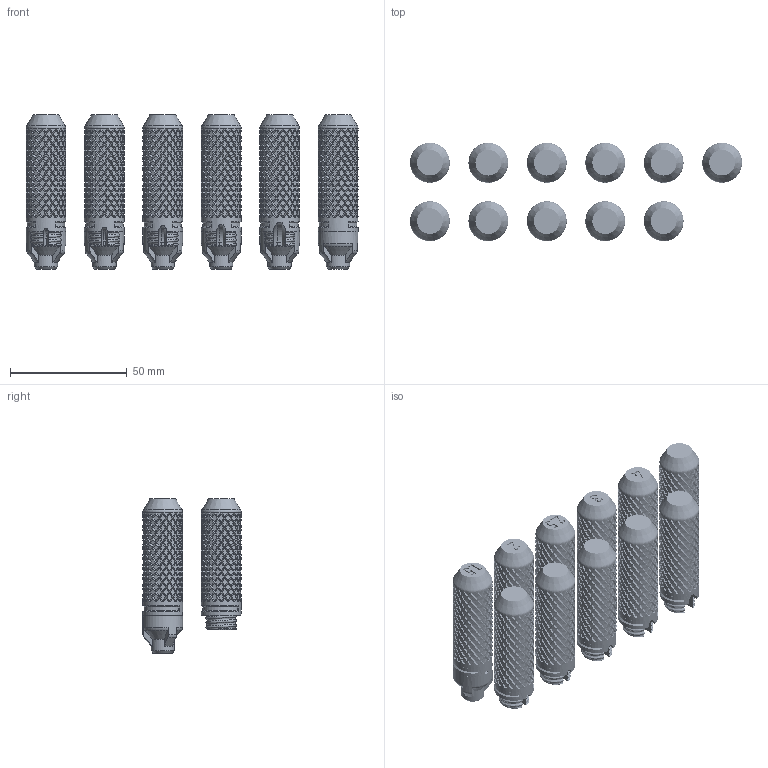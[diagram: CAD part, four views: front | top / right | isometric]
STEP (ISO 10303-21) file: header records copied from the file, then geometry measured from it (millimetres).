
FILE_DESCRIPTION(/* description */ (''),/* implementation_level */ '2;1');
FILE_NAME(/* name */ 'HexKeyEasyHandles_v1.2.step',/* time_stamp */ '2024-08-19T18:04:09+09:00',/* author */ (''),/* organization */ (''),/* preprocessor_version */ 'ST-DEVELOPER v20',/* originating_system */ 'Autodesk Translation Framework v13.14.0.145',/* authorisation */ '');
FILE_SCHEMA (('AUTOMOTIVE_DESIGN { 1 0 10303 214 3 1 1 }'));
Length unit declared in the file: millimetre
Products named in the file (1): Hex Key EZ Handles 2024
Bounding box: 142 x 42 x 66 mm (x, y, z)
Volume: 130914.4 mm3; surface area: 67757.2 mm2
Topology: 17 solids, 17 shells, 18801 faces, 38512 edges, 19770 vertices
Faces by surface type: bspline 14542, cylinder 3435, plane 690, cone 87, torus 47
Full cylindrical faces by diameter (mm): 2.1 x1, 2.6 x1, 3.2 x1, 3.8 x1, 4.8 x1, 10 x6, 17 x28
Entity records: 712809 total; most frequent: CARTESIAN_POINT 446071, ORIENTED_EDGE 77024, EDGE_CURVE 38512, B_SPLINE_CURVE_WITH_KNOTS 36399, VERTEX_POINT 19770, EDGE_LOOP 18836, FACE_OUTER_BOUND 18801, ADVANCED_FACE 18801
